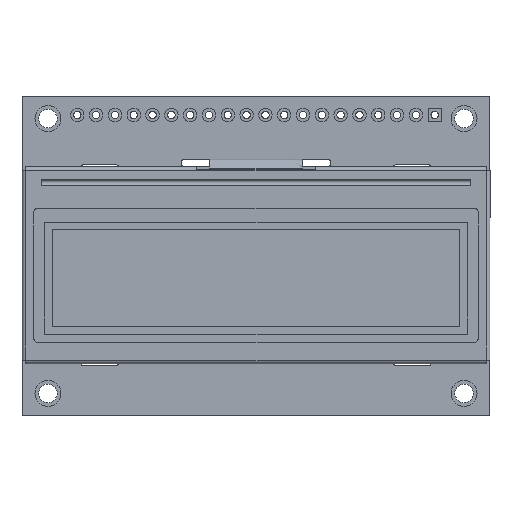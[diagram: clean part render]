
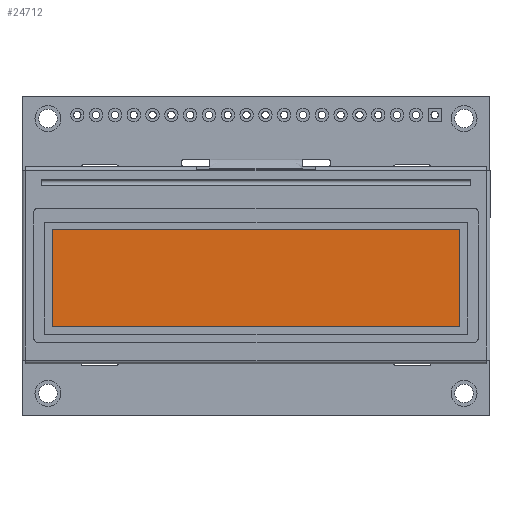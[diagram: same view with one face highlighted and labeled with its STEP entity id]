
A CAD part, front view. The second image highlights one B-rep face of the part: STEP entity #24712.
In plain terms, the highlighted planar face has unit normal (0, -1, 0).
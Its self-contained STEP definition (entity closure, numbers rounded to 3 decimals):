
#1490 = DIRECTION ( 'NONE',  ( 0., 0., -1. ) ) ;
#2561 = CARTESIAN_POINT ( 'NONE',  ( -125.013, -3.244, 42.406 ) ) ;
#3057 = DIRECTION ( 'NONE',  ( 0., 0., 1. ) ) ;
#3416 = VERTEX_POINT ( 'NONE', #2561 ) ;
#3779 = ORIENTED_EDGE ( 'NONE', *, *, #10032, .T. ) ;
#5195 = EDGE_LOOP ( 'NONE', ( #21983, #14675, #3779, #27725 ) ) ;
#6715 = DIRECTION ( 'NONE',  ( 0., -1., 0. ) ) ;
#7500 = EDGE_CURVE ( 'NONE', #28541, #18620, #32827, .T. ) ;
#10032 = EDGE_CURVE ( 'NONE', #18620, #3416, #10315, .T. ) ;
#10315 = LINE ( 'NONE', #34194, #23545 ) ;
#10845 = CARTESIAN_POINT ( 'NONE',  ( -69.993, -3.244, 42.406 ) ) ;
#13360 = VECTOR ( 'NONE', #3057, 1000. ) ;
#13553 = VERTEX_POINT ( 'NONE', #10845 ) ;
#14675 = ORIENTED_EDGE ( 'NONE', *, *, #7500, .T. ) ;
#15571 = LINE ( 'NONE', #32820, #13360 ) ;
#16079 = PLANE ( 'NONE',  #26949 ) ;
#18216 = CARTESIAN_POINT ( 'NONE',  ( -69.993, -3.244, 42.406 ) ) ;
#18620 = VERTEX_POINT ( 'NONE', #24247 ) ;
#21777 = FACE_OUTER_BOUND ( 'NONE', #5195, .T. ) ;
#21983 = ORIENTED_EDGE ( 'NONE', *, *, #36439, .T. ) ;
#23545 = VECTOR ( 'NONE', #1490, 1000. ) ;
#24247 = CARTESIAN_POINT ( 'NONE',  ( -125.013, -3.244, 55.506 ) ) ;
#24600 = DIRECTION ( 'NONE',  ( -1., 0., 0. ) ) ;
#24712 = ADVANCED_FACE ( 'NONE', ( #21777 ), #16079, .T. ) ;
#26949 = AXIS2_PLACEMENT_3D ( 'NONE', #33709, #6715, #36827 ) ;
#27346 = CARTESIAN_POINT ( 'NONE',  ( -69.993, -3.244, 55.506 ) ) ;
#27416 = DIRECTION ( 'NONE',  ( 1., 0., 0. ) ) ;
#27725 = ORIENTED_EDGE ( 'NONE', *, *, #34979, .T. ) ;
#27864 = CARTESIAN_POINT ( 'NONE',  ( -69.993, -3.244, 55.506 ) ) ;
#28541 = VERTEX_POINT ( 'NONE', #27864 ) ;
#30439 = VECTOR ( 'NONE', #24600, 1000. ) ;
#32820 = CARTESIAN_POINT ( 'NONE',  ( -69.993, -3.244, 42.406 ) ) ;
#32827 = LINE ( 'NONE', #27346, #30439 ) ;
#33709 = CARTESIAN_POINT ( 'NONE',  ( -97.503, -3.244, 51.406 ) ) ;
#34194 = CARTESIAN_POINT ( 'NONE',  ( -125.013, -3.244, 42.406 ) ) ;
#34569 = VECTOR ( 'NONE', #27416, 1000. ) ;
#34979 = EDGE_CURVE ( 'NONE', #3416, #13553, #36208, .T. ) ;
#36208 = LINE ( 'NONE', #18216, #34569 ) ;
#36439 = EDGE_CURVE ( 'NONE', #13553, #28541, #15571, .T. ) ;
#36827 = DIRECTION ( 'NONE',  ( 0., 0., 1. ) ) ;
